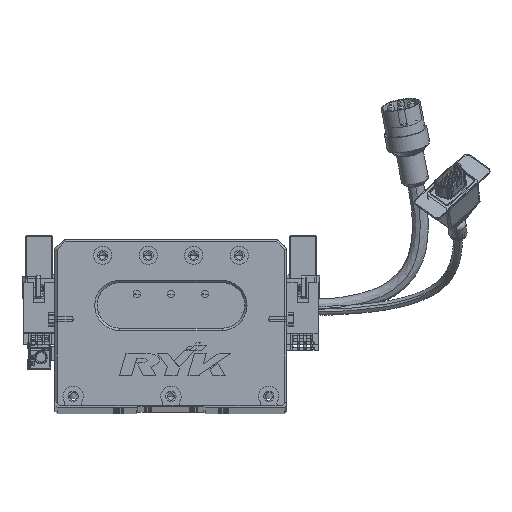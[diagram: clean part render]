
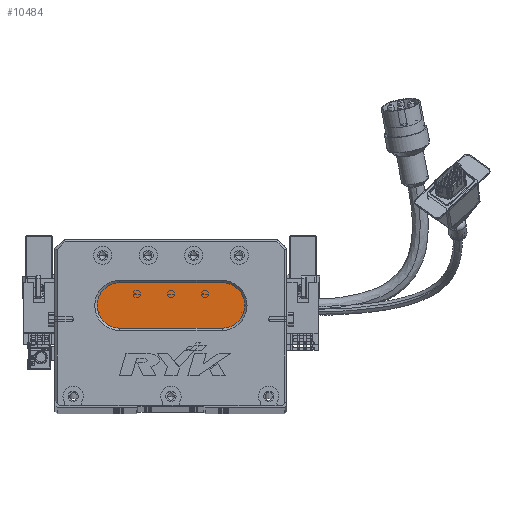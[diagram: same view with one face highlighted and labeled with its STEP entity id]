
A CAD part, top view. The second image highlights one B-rep face of the part: STEP entity #10484.
In plain terms, the highlighted planar face has unit normal (0, 0, 1) as drawn and (0, 0, -1) by its records, which use the part's own axes.
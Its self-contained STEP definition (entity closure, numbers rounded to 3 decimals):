
#2001 = ORIENTED_EDGE ( 'NONE', *, *, #35197, .T. ) ;
#3750 = CARTESIAN_POINT ( 'NONE',  ( 73.5, 44., 13. ) ) ;
#5151 = VECTOR ( 'NONE', #66893, 1000. ) ;
#5664 = EDGE_CURVE ( 'NONE', #49078, #36132, #22408, .T. ) ;
#6179 = CARTESIAN_POINT ( 'NONE',  ( 28.5, 44., 13. ) ) ;
#6217 = EDGE_CURVE ( 'NONE', #36132, #12105, #44907, .T. ) ;
#7100 = CARTESIAN_POINT ( 'NONE',  ( 73.5, 44., 13. ) ) ;
#9256 = CARTESIAN_POINT ( 'NONE',  ( 73.5, 54., 13. ) ) ;
#9940 = CARTESIAN_POINT ( 'NONE',  ( 73.5, 34., 13. ) ) ;
#10008 = ORIENTED_EDGE ( 'NONE', *, *, #6217, .T. ) ;
#10484 = ADVANCED_FACE ( 'NONE', ( #19968 ), #72786, .T. ) ;
#11098 = ORIENTED_EDGE ( 'NONE', *, *, #5664, .T. ) ;
#11907 = CIRCLE ( 'NONE', #73574, 10. ) ;
#12105 = VERTEX_POINT ( 'NONE', #44741 ) ;
#12442 = EDGE_CURVE ( 'NONE', #12105, #59787, #53412, .T. ) ;
#13297 = ORIENTED_EDGE ( 'NONE', *, *, #12442, .T. ) ;
#13794 = CARTESIAN_POINT ( 'NONE',  ( 73.5, 34., 13. ) ) ;
#19968 = FACE_OUTER_BOUND ( 'NONE', #41042, .T. ) ;
#21109 = AXIS2_PLACEMENT_3D ( 'NONE', #3750, #49893, #55653 ) ;
#21812 = DIRECTION ( 'NONE',  ( 0., 0., -1. ) ) ;
#22408 = CIRCLE ( 'NONE', #37772, 10. ) ;
#23248 = LINE ( 'NONE', #13794, #74616 ) ;
#30114 = DIRECTION ( 'NONE',  ( 0., 0., -1. ) ) ;
#33319 = CARTESIAN_POINT ( 'NONE',  ( 28.5, 54., 13. ) ) ;
#35197 = EDGE_CURVE ( 'NONE', #59787, #61470, #23248, .T. ) ;
#36132 = VERTEX_POINT ( 'NONE', #33319 ) ;
#37772 = AXIS2_PLACEMENT_3D ( 'NONE', #56285, #21812, #73674 ) ;
#41042 = EDGE_LOOP ( 'NONE', ( #13297, #2001, #44057, #11098, #10008 ) ) ;
#42129 = CARTESIAN_POINT ( 'NONE',  ( 18.5, 44., 13. ) ) ;
#44057 = ORIENTED_EDGE ( 'NONE', *, *, #48355, .T. ) ;
#44537 = CARTESIAN_POINT ( 'NONE',  ( 28.5, 34., 13. ) ) ;
#44741 = CARTESIAN_POINT ( 'NONE',  ( 73.5, 54., 13. ) ) ;
#44907 = LINE ( 'NONE', #9256, #5151 ) ;
#48355 = EDGE_CURVE ( 'NONE', #61470, #49078, #11907, .T. ) ;
#49078 = VERTEX_POINT ( 'NONE', #42129 ) ;
#49893 = DIRECTION ( 'NONE',  ( 0., 0., -1. ) ) ;
#53412 = CIRCLE ( 'NONE', #72831, 10. ) ;
#55653 = DIRECTION ( 'NONE',  ( -1., 0., 0. ) ) ;
#56285 = CARTESIAN_POINT ( 'NONE',  ( 28.5, 44., 13. ) ) ;
#59787 = VERTEX_POINT ( 'NONE', #9940 ) ;
#61470 = VERTEX_POINT ( 'NONE', #44537 ) ;
#64276 = DIRECTION ( 'NONE',  ( 0., 0., -1. ) ) ;
#66893 = DIRECTION ( 'NONE',  ( 1., 0., 0. ) ) ;
#69592 = DIRECTION ( 'NONE',  ( -1., 0., 0. ) ) ;
#70372 = DIRECTION ( 'NONE',  ( -1., 0., 0. ) ) ;
#72446 = DIRECTION ( 'NONE',  ( -1., 0., 0. ) ) ;
#72786 = PLANE ( 'NONE',  #21109 ) ;
#72831 = AXIS2_PLACEMENT_3D ( 'NONE', #7100, #64276, #69592 ) ;
#73574 = AXIS2_PLACEMENT_3D ( 'NONE', #6179, #30114, #70372 ) ;
#73674 = DIRECTION ( 'NONE',  ( -1., 0., 0. ) ) ;
#74616 = VECTOR ( 'NONE', #72446, 1000. ) ;
